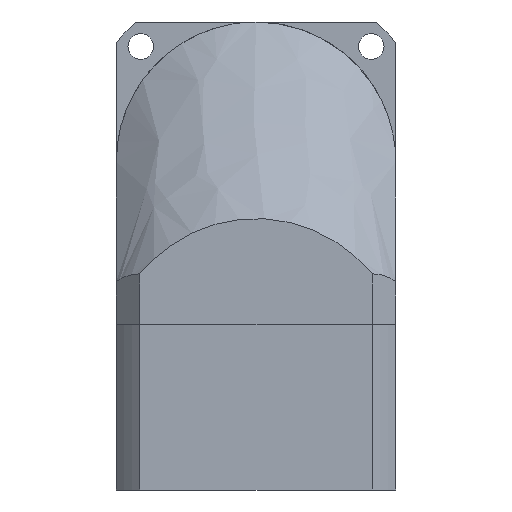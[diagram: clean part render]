
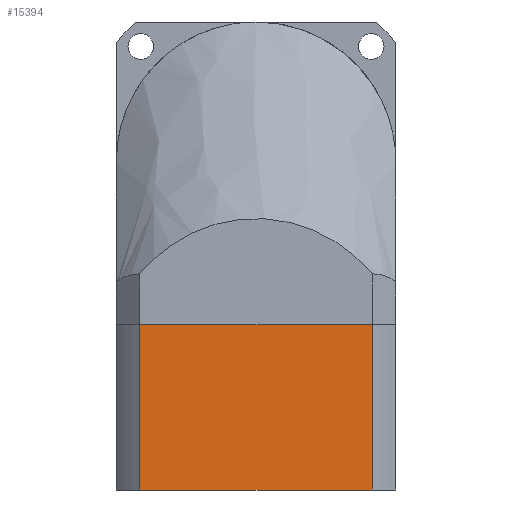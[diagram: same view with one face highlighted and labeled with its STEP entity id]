
A CAD part, front view. The second image highlights one B-rep face of the part: STEP entity #15394.
In plain terms, the highlighted planar face has unit normal (0, -1, 0).
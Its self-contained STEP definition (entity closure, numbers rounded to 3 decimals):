
#1412 = LINE ( 'NONE', #16433, #26090 ) ;
#2601 = VERTEX_POINT ( 'NONE', #17869 ) ;
#4776 = ORIENTED_EDGE ( 'NONE', *, *, #16383, .F. ) ;
#5165 = EDGE_CURVE ( 'NONE', #7417, #2601, #24260, .T. ) ;
#5704 = AXIS2_PLACEMENT_3D ( 'NONE', #25157, #11949, #27340 ) ;
#6775 = CARTESIAN_POINT ( 'NONE',  ( 24.92, -30., -35.5 ) ) ;
#7154 = CARTESIAN_POINT ( 'NONE',  ( 24.92, -30., 0. ) ) ;
#7417 = VERTEX_POINT ( 'NONE', #25254 ) ;
#7697 = FACE_OUTER_BOUND ( 'NONE', #20843, .T. ) ;
#8092 = VECTOR ( 'NONE', #21003, 1000. ) ;
#8734 = ORIENTED_EDGE ( 'NONE', *, *, #5165, .T. ) ;
#11530 = VERTEX_POINT ( 'NONE', #27911 ) ;
#11949 = DIRECTION ( 'NONE',  ( 0., -1., 0. ) ) ;
#12120 = CARTESIAN_POINT ( 'NONE',  ( 0., -30., 0. ) ) ;
#13325 = EDGE_CURVE ( 'NONE', #11530, #14812, #20974, .T. ) ;
#13810 = DIRECTION ( 'NONE',  ( 0., 0., -1. ) ) ;
#14504 = CARTESIAN_POINT ( 'NONE',  ( 0., -30., -35.5 ) ) ;
#14812 = VERTEX_POINT ( 'NONE', #6775 ) ;
#15080 = VECTOR ( 'NONE', #27765, 1000. ) ;
#15394 = ADVANCED_FACE ( 'NONE', ( #7697 ), #24766, .T. ) ;
#15486 = VECTOR ( 'NONE', #13810, 1000. ) ;
#16383 = EDGE_CURVE ( 'NONE', #7417, #14812, #27202, .T. ) ;
#16433 = CARTESIAN_POINT ( 'NONE',  ( -24.92, -30., -35.5 ) ) ;
#16762 = EDGE_CURVE ( 'NONE', #2601, #11530, #1412, .T. ) ;
#17869 = CARTESIAN_POINT ( 'NONE',  ( -24.92, -30., 0. ) ) ;
#18474 = ORIENTED_EDGE ( 'NONE', *, *, #13325, .T. ) ;
#20700 = DIRECTION ( 'NONE',  ( 0., 0., -1. ) ) ;
#20843 = EDGE_LOOP ( 'NONE', ( #24995, #18474, #4776, #8734 ) ) ;
#20974 = LINE ( 'NONE', #14504, #15080 ) ;
#21003 = DIRECTION ( 'NONE',  ( -1., 0., 0. ) ) ;
#24260 = LINE ( 'NONE', #12120, #8092 ) ;
#24766 = PLANE ( 'NONE',  #5704 ) ;
#24995 = ORIENTED_EDGE ( 'NONE', *, *, #16762, .T. ) ;
#25157 = CARTESIAN_POINT ( 'NONE',  ( -30., -30., -35.5 ) ) ;
#25254 = CARTESIAN_POINT ( 'NONE',  ( 24.92, -30., 0. ) ) ;
#26090 = VECTOR ( 'NONE', #20700, 1000. ) ;
#27202 = LINE ( 'NONE', #7154, #15486 ) ;
#27340 = DIRECTION ( 'NONE',  ( 0., 0., -1. ) ) ;
#27765 = DIRECTION ( 'NONE',  ( 1., 0., 0. ) ) ;
#27911 = CARTESIAN_POINT ( 'NONE',  ( -24.92, -30., -35.5 ) ) ;
